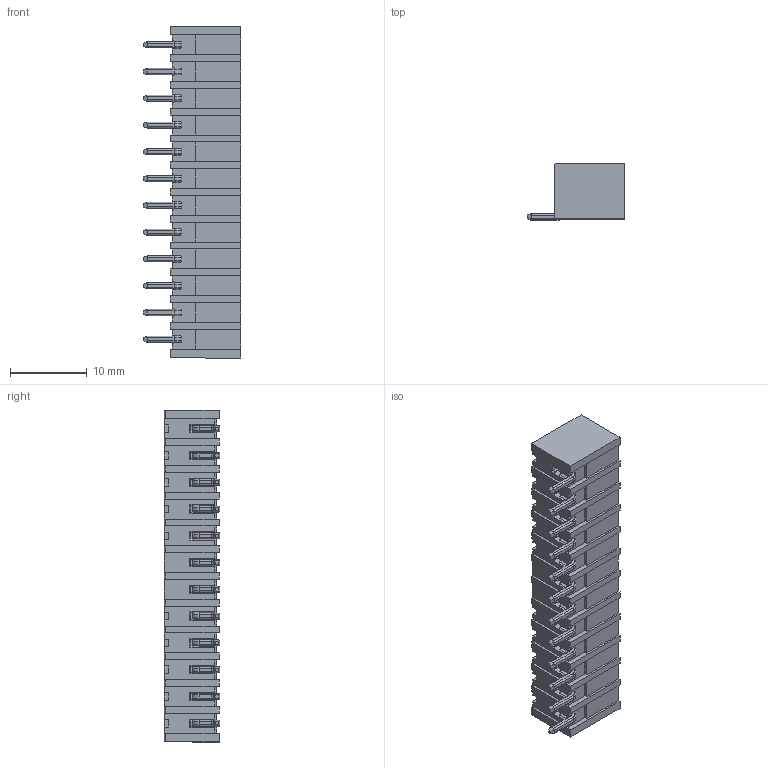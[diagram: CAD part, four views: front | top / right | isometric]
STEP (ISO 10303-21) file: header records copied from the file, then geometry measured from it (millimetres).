
FILE_DESCRIPTION (( 'STEP AP214' ), '1' );
FILE_NAME ('110-M-211-SMD-12.STEP', '2016-12-05T15:26:40', ( '' ), ( '' ), 'SwSTEP 2.0', 'SolidWorks 2016', '' );
FILE_SCHEMA (( 'AUTOMOTIVE_DESIGN' ));
Length unit declared in the file: millimetre
Products named in the file (1): 110-M-211-SMD-12
Bounding box: 12.7 x 7.3 x 43.4 mm (x, y, z)
Volume: 1352.7 mm3; surface area: 3799.7 mm2
Topology: 1 solids, 1 shells, 1559 faces, 4123 edges, 2582 vertices
Faces by surface type: plane 1054, cylinder 337, cone 72, bspline 72, torus 24
Entity records: 50381 total; most frequent: CARTESIAN_POINT 13809, ORIENTED_EDGE 8246, DIRECTION 6633, EDGE_CURVE 4123, VECTOR 2717, LINE 2717, VERTEX_POINT 2582, AXIS2_PLACEMENT_3D 1958
